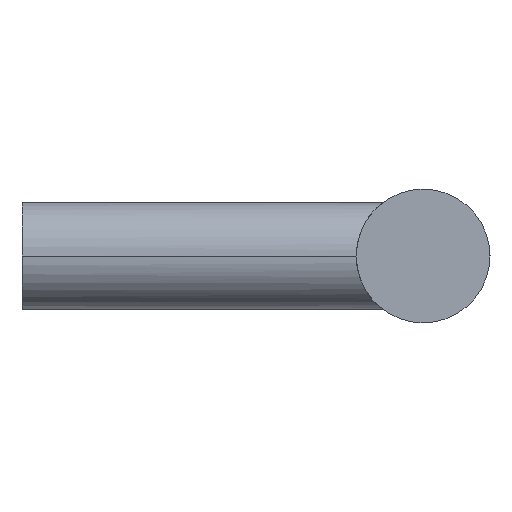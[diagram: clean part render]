
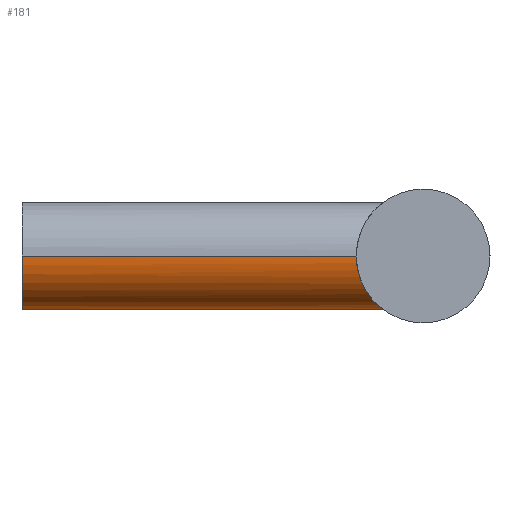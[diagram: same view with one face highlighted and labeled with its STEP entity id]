
A CAD part, left-side view. The second image highlights one B-rep face of the part: STEP entity #181.
In plain terms, the highlighted cylindrical face has radius 4 mm (diameter 8 mm), a partial arc.
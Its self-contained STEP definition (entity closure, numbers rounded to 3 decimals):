
#103 = EDGE_CURVE( '', #233, #227, #262, .T. );
#155 = VERTEX_POINT( '', #315 );
#181 = ADVANCED_FACE( '', ( #349 ), #350, .T. );
#183 = VERTEX_POINT( '', #352 );
#201 = EDGE_CURVE( '', #155, #183, #374, .T. );
#207 = EDGE_CURVE( '', #155, #227, #380, .T. );
#227 = VERTEX_POINT( '', #402 );
#231 = EDGE_CURVE( '', #233, #183, #406, .T. );
#233 = VERTEX_POINT( '', #408 );
#262 = LINE( '', #451, #452 );
#315 = CARTESIAN_POINT( '', ( 4., 0., 0. ) );
#349 = FACE_OUTER_BOUND( '', #612, .T. );
#350 = CYLINDRICAL_SURFACE( '', #613, 4. );
#352 = CARTESIAN_POINT( '', ( 4., -25., 0. ) );
#374 = LINE( '', #640, #641 );
#380 = CIRCLE( '', #648, 4. );
#402 = CARTESIAN_POINT( '', ( -4., 0., 0. ) );
#406 = B_SPLINE_CURVE_WITH_KNOTS( '', 3, ( #716, #717, #718, #719, #720, #721, #722, #723, #724, #725, #726, #727, #728, #729, #730, #731, #732, #733, #734, #735, #736, #737, #738, #739, #740, #741, #742, #743, #744, #745, #746, #747, #748, #749 ), .UNSPECIFIED., .F., .F., ( 4, 2, 2, 2, 2, 2, 2, 2, 2, 2, 2, 2, 2, 2, 2, 2, 4 ), ( 6.46, 7.255, 8.05, 8.845, 9.639, 10.46, 11.28, 12.1, 12.921, 13.741, 14.561, 15.381, 16.202, 16.997, 17.791, 18.586, 19.381 ), .UNSPECIFIED. );
#408 = CARTESIAN_POINT( '', ( -4., -25., 0. ) );
#451 = CARTESIAN_POINT( '', ( -4., 0., 0. ) );
#452 = VECTOR( '', #767, 1. );
#612 = EDGE_LOOP( '', ( #855, #856, #857, #858 ) );
#613 = AXIS2_PLACEMENT_3D( '', #859, #860, #861 );
#640 = CARTESIAN_POINT( '', ( 4., 0., 0. ) );
#641 = VECTOR( '', #894, 1. );
#648 = AXIS2_PLACEMENT_3D( '', #895, #896, #897 );
#716 = CARTESIAN_POINT( '', ( -4., -25., 0. ) );
#717 = CARTESIAN_POINT( '', ( -4., -25., -0.265 ) );
#718 = CARTESIAN_POINT( '', ( -3.973, -25.021, -0.535 ) );
#719 = CARTESIAN_POINT( '', ( -3.865, -25.107, -1.064 ) );
#720 = CARTESIAN_POINT( '', ( -3.784, -25.171, -1.323 ) );
#721 = CARTESIAN_POINT( '', ( -3.575, -25.333, -1.813 ) );
#722 = CARTESIAN_POINT( '', ( -3.447, -25.431, -2.045 ) );
#723 = CARTESIAN_POINT( '', ( -3.158, -25.645, -2.468 ) );
#724 = CARTESIAN_POINT( '', ( -2.997, -25.761, -2.66 ) );
#725 = CARTESIAN_POINT( '', ( -2.654, -25.996, -3.002 ) );
#726 = CARTESIAN_POINT( '', ( -2.459, -26.124, -3.165 ) );
#727 = CARTESIAN_POINT( '', ( -2.035, -26.379, -3.453 ) );
#728 = CARTESIAN_POINT( '', ( -1.807, -26.505, -3.578 ) );
#729 = CARTESIAN_POINT( '', ( -1.324, -26.728, -3.784 ) );
#730 = CARTESIAN_POINT( '', ( -1.07, -26.825, -3.864 ) );
#731 = CARTESIAN_POINT( '', ( -0.545, -26.962, -3.972 ) );
#732 = CARTESIAN_POINT( '', ( -0.273, -27., -4. ) );
#733 = CARTESIAN_POINT( '', ( 0.273, -27., -4. ) );
#734 = CARTESIAN_POINT( '', ( 0.545, -26.962, -3.972 ) );
#735 = CARTESIAN_POINT( '', ( 1.07, -26.825, -3.864 ) );
#736 = CARTESIAN_POINT( '', ( 1.324, -26.728, -3.784 ) );
#737 = CARTESIAN_POINT( '', ( 1.807, -26.505, -3.578 ) );
#738 = CARTESIAN_POINT( '', ( 2.035, -26.379, -3.453 ) );
#739 = CARTESIAN_POINT( '', ( 2.459, -26.124, -3.165 ) );
#740 = CARTESIAN_POINT( '', ( 2.654, -25.996, -3.002 ) );
#741 = CARTESIAN_POINT( '', ( 2.997, -25.761, -2.66 ) );
#742 = CARTESIAN_POINT( '', ( 3.158, -25.645, -2.468 ) );
#743 = CARTESIAN_POINT( '', ( 3.447, -25.431, -2.045 ) );
#744 = CARTESIAN_POINT( '', ( 3.575, -25.333, -1.813 ) );
#745 = CARTESIAN_POINT( '', ( 3.784, -25.171, -1.323 ) );
#746 = CARTESIAN_POINT( '', ( 3.865, -25.107, -1.064 ) );
#747 = CARTESIAN_POINT( '', ( 3.973, -25.021, -0.535 ) );
#748 = CARTESIAN_POINT( '', ( 4., -25., -0.265 ) );
#749 = CARTESIAN_POINT( '', ( 4., -25., 0. ) );
#767 = DIRECTION( '', ( 0., 1., 0. ) );
#855 = ORIENTED_EDGE( '', *, *, #201, .T. );
#856 = ORIENTED_EDGE( '', *, *, #231, .F. );
#857 = ORIENTED_EDGE( '', *, *, #103, .T. );
#858 = ORIENTED_EDGE( '', *, *, #207, .F. );
#859 = CARTESIAN_POINT( '', ( 0., 0., 0. ) );
#860 = DIRECTION( '', ( 0., 1., 0. ) );
#861 = DIRECTION( '', ( 1., 0., 0. ) );
#894 = DIRECTION( '', ( 0., -1., 0. ) );
#895 = CARTESIAN_POINT( '', ( 0., 0., 0. ) );
#896 = DIRECTION( '', ( 0., 1., 0. ) );
#897 = DIRECTION( '', ( 1., 0., 0. ) );
